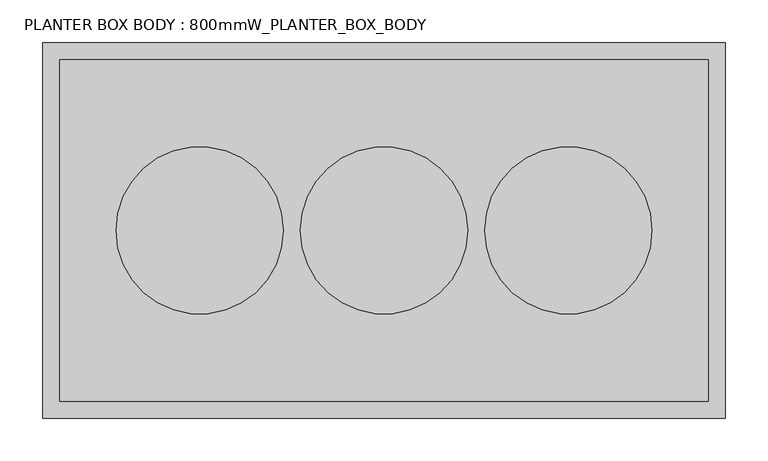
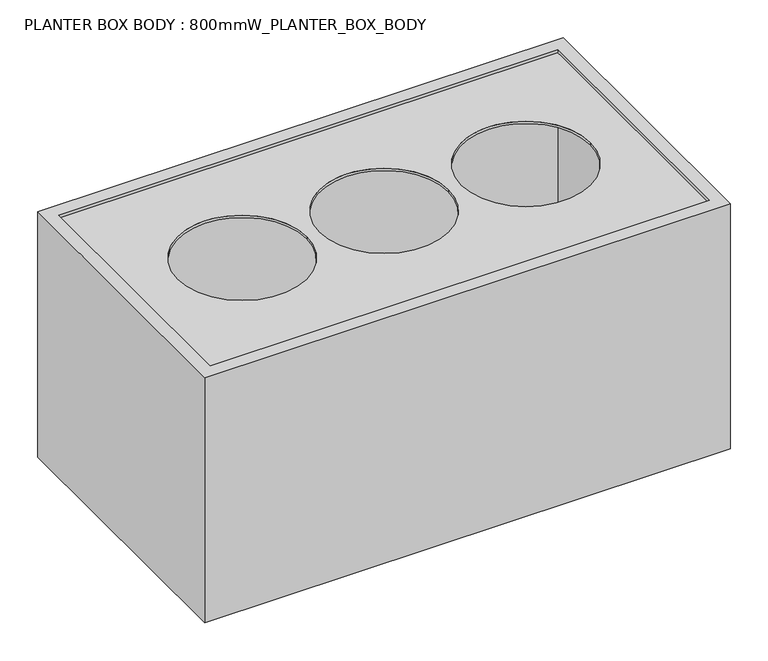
"""IFC4 building model written with IfcOpenShell, lengths in millimetres: furniture geometry, PLANTER BOX BODY : 800mmW_PLANTER_BOX_BODY."""

from ifc_helpers import new_model, si_unit, point, frame, frame_2d, origin, origin_with_axes, origin_2d, place, context, project, spatial, polyline, circle_curve, trimmed, segment, composite_curve, outline, extrude, source, transform, mapped, element, save


def planter_box_body_800mmw_planter_box_body_04403f23(model_context):
    return source(origin(), model_context, "Body", "SweptSolid", [
        extrude(outline(polyline([(380.0, 200.0), (380.0, -200.0), (-380.0, -200.0), (-380.0, 200.0), (380.0, 200.0)])), origin_with_axes(), (0.0, 0.0, 1.0), 15.0),
        extrude(outline(polyline([(380.0, 200.0), (380.0, -200.0), (-380.0, -200.0), (-380.0, 200.0), (380.0, 200.0)]), holes=[composite_curve([segment(trimmed(circle_curve(origin_2d(), 98.0), [point((-98.0, 0.0))], [point((98.0, 0.0))], True, "CARTESIAN"), True, "CONTINUOUS"), segment(trimmed(circle_curve(origin_2d(), 98.0), [point((98.0, 0.0))], [point((-98.0, 0.0))], True, "CARTESIAN"), True, "CONTINUOUS")], self_intersect=False), composite_curve([segment(trimmed(circle_curve(frame_2d((216.0, 0.0)), 98.0), [point((118.0, 0.0))], [point((314.0, 0.0))], True, "CARTESIAN"), True, "CONTINUOUS"), segment(trimmed(circle_curve(frame_2d((216.0, 0.0)), 98.0), [point((314.0, 0.0))], [point((118.0, 0.0))], True, "CARTESIAN"), True, "CONTINUOUS")], self_intersect=False), composite_curve([segment(trimmed(circle_curve(frame_2d((-216.0, 0.0)), 98.0), [point((-314.0, 0.0))], [point((-118.0, 0.0))], True, "CARTESIAN"), True, "CONTINUOUS"), segment(trimmed(circle_curve(frame_2d((-216.0, 0.0)), 98.0), [point((-118.0, 0.0))], [point((-314.0, 0.0))], True, "CARTESIAN"), True, "CONTINUOUS")], self_intersect=False)]), frame((0.0, 0.0, 386.4363245), z_axis=(0.0, 0.0, 1.0), x_axis=(1.0, 0.0, 0.0)), (0.0, 0.0, 1.0), 3.5636755),
        extrude(outline(polyline([(400.0, 220.0), (400.0, -220.0), (-400.0, -220.0), (-400.0, 220.0), (400.0, 220.0)]), holes=[polyline([(-380.0, 200.0), (-380.0, -200.0), (380.0, -200.0), (380.0, 200.0), (-380.0, 200.0)])]), origin_with_axes(), (0.0, 0.0, 1.0), 395.0),
    ])


if __name__ == "__main__":
    model = new_model("IFC4")
    model_context = context("Model", 3, world=origin())
    ifc_project = project(units=[si_unit("LENGTHUNIT", "METRE", prefix="MILLI")], contexts=[model_context])
    site = spatial("IfcSite", under=ifc_project)
    building = spatial("IfcBuilding", under=site)
    placement = place(None, origin())
    planter_box_body_800mmw_planter_box_body_shape = planter_box_body_800mmw_planter_box_body_04403f23(model_context)
    element("IfcFurniture", 1, ObjectType="PLANTER BOX BODY : 800mmW_PLANTER_BOX_BODY", at=placement, inside=building, context=model_context, shape_type="MappedRepresentation", body=[
        mapped(planter_box_body_800mmw_planter_box_body_shape, transform((0.0, 0.0, 0.0), x_axis=(1.0, 0.0, 0.0), y_axis=(0.0, 1.0, 0.0), z_axis=(0.0, 0.0, 1.0))),
    ])
    save(model, "model.ifc")
